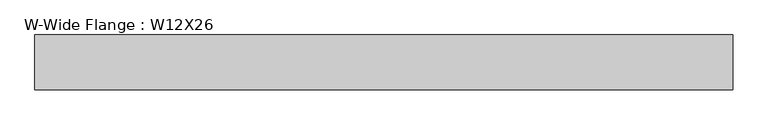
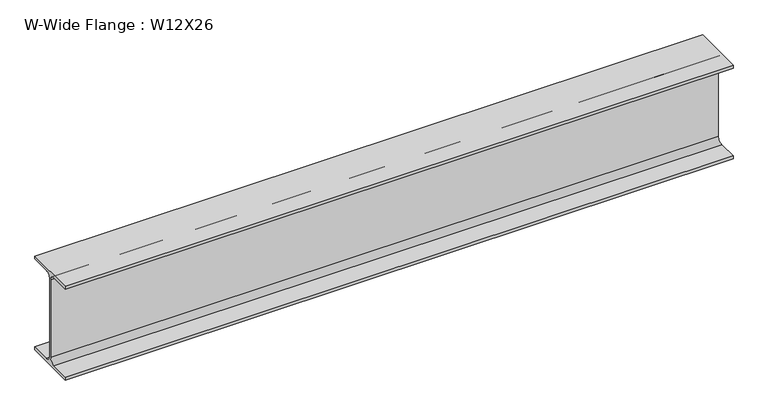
"""IFC4 building model written with IfcOpenShell, lengths in millimetres: beam geometry, W-Wide Flange : W12X26."""

from ifc_helpers import new_model, si_unit, point, frame, frame_2d, origin, place, context, project, spatial, polyline, circle_curve, trimmed, segment, composite_curve, outline, extrude, source, transform, mapped, element, save


def w_wide_flange_w12x26_4f3258ed(model_context):
    return source(origin(), model_context, "Body", "SweptSolid", [
        extrude(outline(composite_curve([segment(polyline([(82.4011719, -145.5539063), (82.4011719, -155.178125), (-82.4011719, -155.178125), (-82.4011719, -145.5539063), (-20.2902344, -145.5539063)]), True, "CONTINUOUS"), segment(trimmed(circle_curve(frame_2d((-20.2902344, -128.190625)), 17.3632812), [point((-20.2902344, -145.5539063))], [point((-2.9269531, -128.190625))], True, "CARTESIAN"), True, "CONTINUOUS"), segment(polyline([(-2.9269531, -128.190625), (-2.9269531, 128.190625)]), True, "CONTINUOUS"), segment(trimmed(circle_curve(frame_2d((-20.2902344, 128.190625)), 17.3632812), [point((-2.9269531, 128.190625))], [point((-20.2902344, 145.5539062))], True, "CARTESIAN"), True, "CONTINUOUS"), segment(polyline([(-20.2902344, 145.5539062), (-82.4011719, 145.5539062), (-82.4011719, 155.178125), (82.4011719, 155.178125), (82.4011719, 145.5539062), (20.2902344, 145.5539062)]), True, "CONTINUOUS"), segment(trimmed(circle_curve(frame_2d((20.2902344, 128.190625)), 17.3632812), [point((20.2902344, 145.5539062))], [point((2.9269531, 128.190625))], True, "CARTESIAN"), True, "CONTINUOUS"), segment(polyline([(2.9269531, 128.190625), (2.9269531, -128.190625)]), True, "CONTINUOUS"), segment(trimmed(circle_curve(frame_2d((20.2902344, -128.190625)), 17.3632812), [point((2.9269531, -128.190625))], [point((20.2902344, -145.5539063))], True, "CARTESIAN"), True, "CONTINUOUS"), segment(polyline([(20.2902344, -145.5539063), (82.4011719, -145.5539063)]), True, "CONTINUOUS")], self_intersect=False)), frame((-1045.3398878, 0.0, 0.0), z_axis=(1.0, 0.0, 0.0), x_axis=(0.0, 1.0, 0.0)), (0.0, 0.0, 1.0), 2090.6797756),
    ])


if __name__ == "__main__":
    model = new_model("IFC4")
    model_context = context("Model", 3, world=origin())
    ifc_project = project(units=[si_unit("LENGTHUNIT", "METRE", prefix="MILLI")], contexts=[model_context])
    site = spatial("IfcSite", under=ifc_project)
    building = spatial("IfcBuilding", under=site)
    placement = place(None, origin())
    w_wide_flange_w12x26_shape = w_wide_flange_w12x26_4f3258ed(model_context)
    element("IfcBeam", 1, ObjectType="W-Wide Flange : W12X26", at=placement, inside=building, context=model_context, shape_type="MappedRepresentation", body=[
        mapped(w_wide_flange_w12x26_shape, transform((0.0, 0.0, 0.0), x_axis=(1.0, 0.0, 0.0), y_axis=(0.0, 1.0, 0.0), z_axis=(0.0, 0.0, 1.0))),
    ])
    save(model, "model.ifc")
